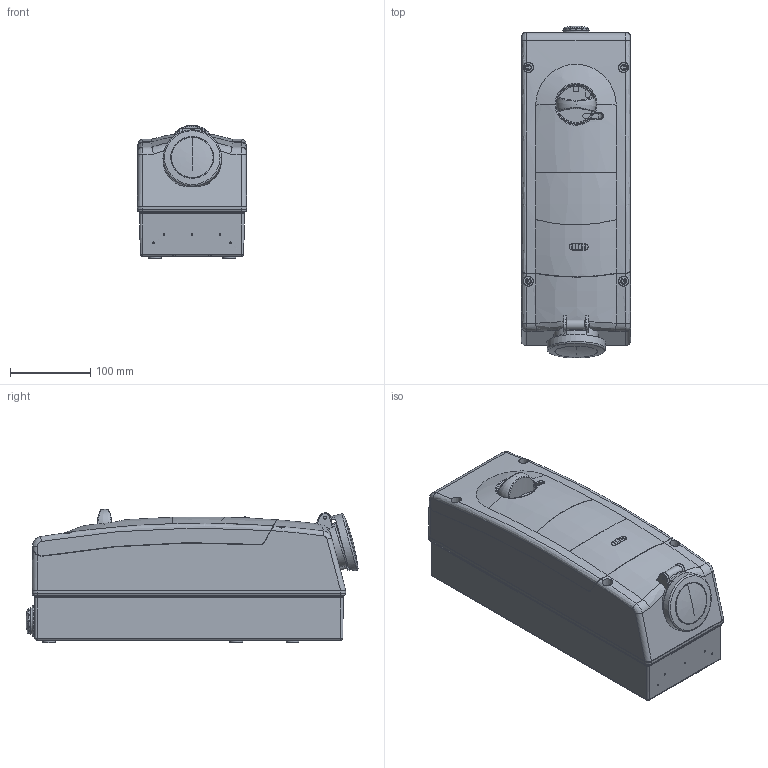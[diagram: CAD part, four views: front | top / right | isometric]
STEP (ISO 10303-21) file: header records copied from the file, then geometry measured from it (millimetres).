
FILE_DESCRIPTION(/* description */ (''),/* implementation_level */ '2;1');
FILE_NAME(/* name */ '4003885.stp',/* time_stamp */ '2016-09-22T15:36:07+02:00',/* author */ (''),/* organization */ (''),/* preprocessor_version */ 'ST-DEVELOPER v16',/* originating_system */ 'SIEMENS PLM Software NX 11.0',/* authorisation */ '');
FILE_SCHEMA (('AUTOMOTIVE_DESIGN { 1 0 10303 214 3 1 1 1 }'));
Length unit declared in the file: millimetre
Products named in the file (1): 4003885_LINKEDEXT_jt
Bounding box: 136 x 413.15 x 165.75 mm (x, y, z)
Surface area: 288626.1 mm2 (no closed solid volume)
Topology: 0 solids, 49 shells, 335 faces, 1351 edges, 999 vertices
Faces by surface type: plane 132, cylinder 70, bspline 58, cone 41, torus 30, sphere 3, revolution 1
Full cylindrical faces by diameter (mm): 16 x6, 33.2 x1, 39 x1, 52 x1, 53.5 x1
Entity records: 21092 total; most frequent: CARTESIAN_POINT 8305, DIRECTION 2024, ORIENTED_EDGE 1840, EDGE_CURVE 1284, VERTEX_POINT 980, AXIS2_PLACEMENT_3D 758, LINE 507, VECTOR 507
